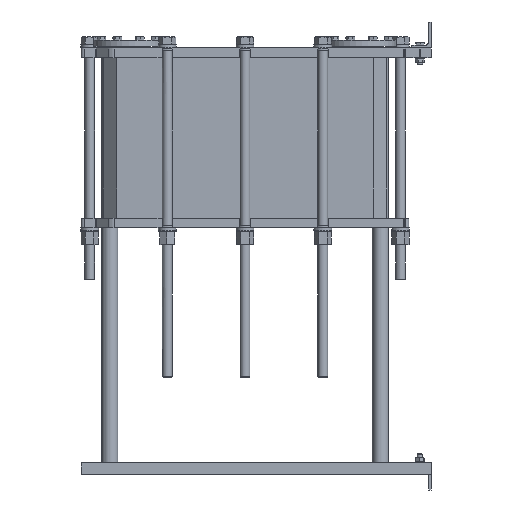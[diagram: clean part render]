
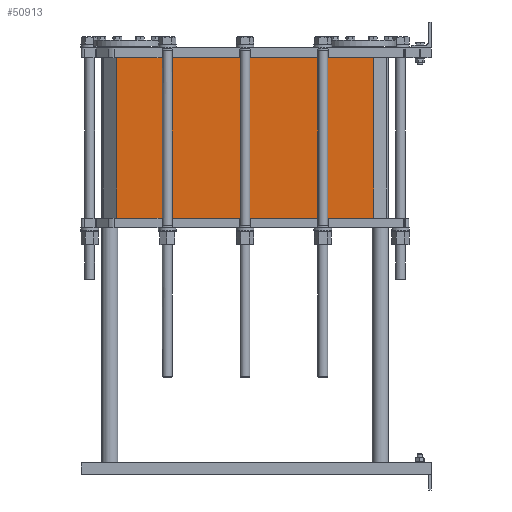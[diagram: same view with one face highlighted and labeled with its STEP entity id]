
A CAD part, left-side view. The second image highlights one B-rep face of the part: STEP entity #50913.
In plain terms, the highlighted planar face has unit normal (-1, 0, 0).
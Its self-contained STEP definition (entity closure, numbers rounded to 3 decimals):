
#257 = CARTESIAN_POINT ( 'NONE',  ( 43.5, 178., -110. ) ) ;
#2139 = VERTEX_POINT ( 'NONE', #7669 ) ;
#2837 = DIRECTION ( 'NONE',  ( -1., 0., 0. ) ) ;
#3645 = CARTESIAN_POINT ( 'NONE',  ( 43.5, 178., -110. ) ) ;
#3703 = EDGE_CURVE ( 'NONE', #20170, #18571, #54056, .T. ) ;
#7669 = CARTESIAN_POINT ( 'NONE',  ( 43.5, 178., -110. ) ) ;
#10506 = LINE ( 'NONE', #85035, #71388 ) ;
#16728 = EDGE_CURVE ( 'NONE', #109222, #2139, #10506, .T. ) ;
#18571 = VERTEX_POINT ( 'NONE', #34819 ) ;
#19022 = AXIS2_PLACEMENT_3D ( 'NONE', #3645, #2837, #29126 ) ;
#20170 = VERTEX_POINT ( 'NONE', #25727 ) ;
#21917 = PLANE ( 'NONE',  #19022 ) ;
#25727 = CARTESIAN_POINT ( 'NONE',  ( 43.5, 178., -605. ) ) ;
#29126 = DIRECTION ( 'NONE',  ( 0., 1., 0. ) ) ;
#32317 = EDGE_CURVE ( 'NONE', #109222, #18571, #34261, .T. ) ;
#34261 = LINE ( 'NONE', #114979, #48428 ) ;
#34819 = CARTESIAN_POINT ( 'NONE',  ( 43.5, 971., -605. ) ) ;
#48428 = VECTOR ( 'NONE', #105067, 1000. ) ;
#50913 = ADVANCED_FACE ( 'NONE', ( #90602 ), #21917, .T. ) ;
#53139 = EDGE_LOOP ( 'NONE', ( #112481, #77421, #97459, #104948 ) ) ;
#54056 = LINE ( 'NONE', #113201, #72391 ) ;
#71388 = VECTOR ( 'NONE', #74709, 1000. ) ;
#72391 = VECTOR ( 'NONE', #77944, 1000. ) ;
#74709 = DIRECTION ( 'NONE',  ( 0., -1., 0. ) ) ;
#77421 = ORIENTED_EDGE ( 'NONE', *, *, #32317, .T. ) ;
#77944 = DIRECTION ( 'NONE',  ( 0., 1., 0. ) ) ;
#78860 = VECTOR ( 'NONE', #103233, 1000. ) ;
#85035 = CARTESIAN_POINT ( 'NONE',  ( 43.5, 971., -110. ) ) ;
#90602 = FACE_OUTER_BOUND ( 'NONE', #53139, .T. ) ;
#92183 = CARTESIAN_POINT ( 'NONE',  ( 43.5, 971., -110. ) ) ;
#97304 = LINE ( 'NONE', #257, #78860 ) ;
#97459 = ORIENTED_EDGE ( 'NONE', *, *, #3703, .F. ) ;
#103233 = DIRECTION ( 'NONE',  ( 0., 0., -1. ) ) ;
#104948 = ORIENTED_EDGE ( 'NONE', *, *, #107532, .F. ) ;
#105067 = DIRECTION ( 'NONE',  ( 0., 0., -1. ) ) ;
#107532 = EDGE_CURVE ( 'NONE', #2139, #20170, #97304, .T. ) ;
#109222 = VERTEX_POINT ( 'NONE', #92183 ) ;
#112481 = ORIENTED_EDGE ( 'NONE', *, *, #16728, .F. ) ;
#113201 = CARTESIAN_POINT ( 'NONE',  ( 43.5, 971., -605. ) ) ;
#114979 = CARTESIAN_POINT ( 'NONE',  ( 43.5, 971., -110. ) ) ;
